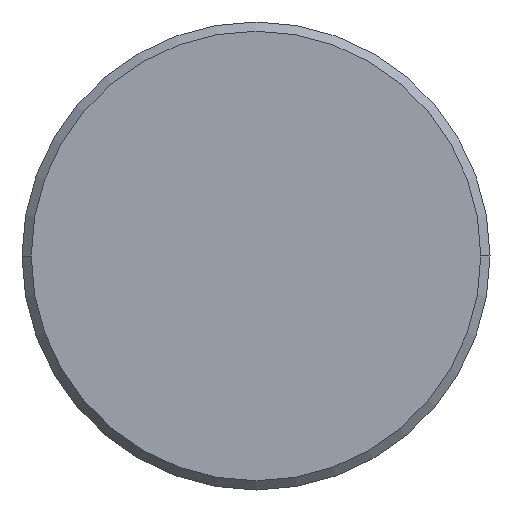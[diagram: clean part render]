
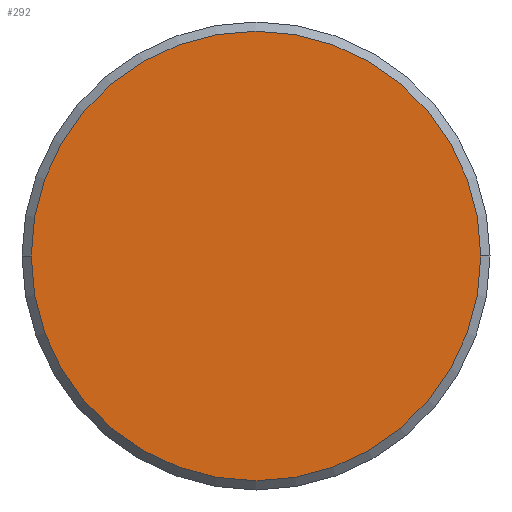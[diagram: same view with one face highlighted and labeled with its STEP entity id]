
A CAD part, left-side view. The second image highlights one B-rep face of the part: STEP entity #292.
In plain terms, the highlighted planar face has unit normal (-1, 0, 0).
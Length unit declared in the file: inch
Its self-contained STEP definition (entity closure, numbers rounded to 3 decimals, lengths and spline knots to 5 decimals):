
#26 = DIRECTION ( 'NONE',  ( 0., -1., 0. ) ) ;
#36 = ORIENTED_EDGE ( 'NONE', *, *, #201, .T. ) ;
#45 = DIRECTION ( 'NONE',  ( 0., -1., 0. ) ) ;
#51 = CARTESIAN_POINT ( 'NONE',  ( 0., 0., 0. ) ) ;
#82 = EDGE_LOOP ( 'NONE', ( #344, #36 ) ) ;
#123 = VERTEX_POINT ( 'NONE', #351 ) ;
#145 = VERTEX_POINT ( 'NONE', #168 ) ;
#155 = AXIS2_PLACEMENT_3D ( 'NONE', #197, #233, #45 ) ;
#168 = CARTESIAN_POINT ( 'NONE',  ( 0., -0.09756, 0. ) ) ;
#197 = CARTESIAN_POINT ( 'NONE',  ( 0., 0., 0. ) ) ;
#198 = CARTESIAN_POINT ( 'NONE',  ( 0., 0., 0. ) ) ;
#201 = EDGE_CURVE ( 'NONE', #145, #123, #236, .T. ) ;
#223 = EDGE_CURVE ( 'NONE', #123, #145, #310, .T. ) ;
#233 = DIRECTION ( 'NONE',  ( -1., 0., 0. ) ) ;
#235 = PLANE ( 'NONE',  #155 ) ;
#236 = CIRCLE ( 'NONE', #293, 0.09756 ) ;
#265 = DIRECTION ( 'NONE',  ( -1., 0., 0. ) ) ;
#272 = FACE_OUTER_BOUND ( 'NONE', #82, .T. ) ;
#292 = ADVANCED_FACE ( 'NONE', ( #272 ), #235, .T. ) ;
#293 = AXIS2_PLACEMENT_3D ( 'NONE', #51, #295, #329 ) ;
#295 = DIRECTION ( 'NONE',  ( -1., 0., 0. ) ) ;
#310 = CIRCLE ( 'NONE', #323, 0.09756 ) ;
#323 = AXIS2_PLACEMENT_3D ( 'NONE', #198, #265, #26 ) ;
#329 = DIRECTION ( 'NONE',  ( 0., -1., 0. ) ) ;
#344 = ORIENTED_EDGE ( 'NONE', *, *, #223, .T. ) ;
#351 = CARTESIAN_POINT ( 'NONE',  ( 0., 0.09756, 0. ) ) ;
